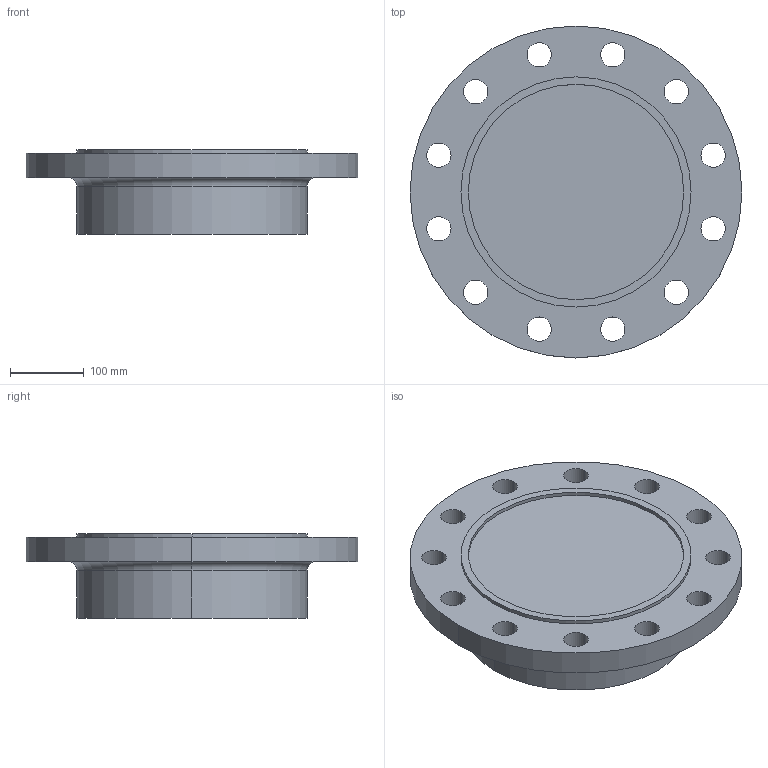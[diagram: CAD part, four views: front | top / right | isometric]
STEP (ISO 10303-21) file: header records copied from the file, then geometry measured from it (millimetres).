
FILE_DESCRIPTION (( 'STEP AP214' ), '1' );
FILE_NAME ('PN40 DN250 Type 21(i) - Type C Face.STEP', '2019-01-05T15:55:16', ( '' ), ( '' ), 'SwSTEP 2.0', 'SolidWorks 2019', '' );
FILE_SCHEMA (( 'AUTOMOTIVE_DESIGN' ));
Length unit declared in the file: millimetre
Products named in the file (1): PN40 DN250 Type 21(i) - Type C Face
Bounding box: 450 x 450 x 115 mm (x, y, z)
Volume: 10874916.1 mm3; surface area: 465243 mm2
Topology: 1 solids, 1 shells, 39 faces, 100 edges, 66 vertices
Faces by surface type: cylinder 32, plane 5, torus 2
Entity records: 1308 total; most frequent: DIRECTION 248, CARTESIAN_POINT 206, ORIENTED_EDGE 200, AXIS2_PLACEMENT_3D 108, EDGE_CURVE 100, CIRCLE 68, VERTEX_POINT 66, EDGE_LOOP 66
